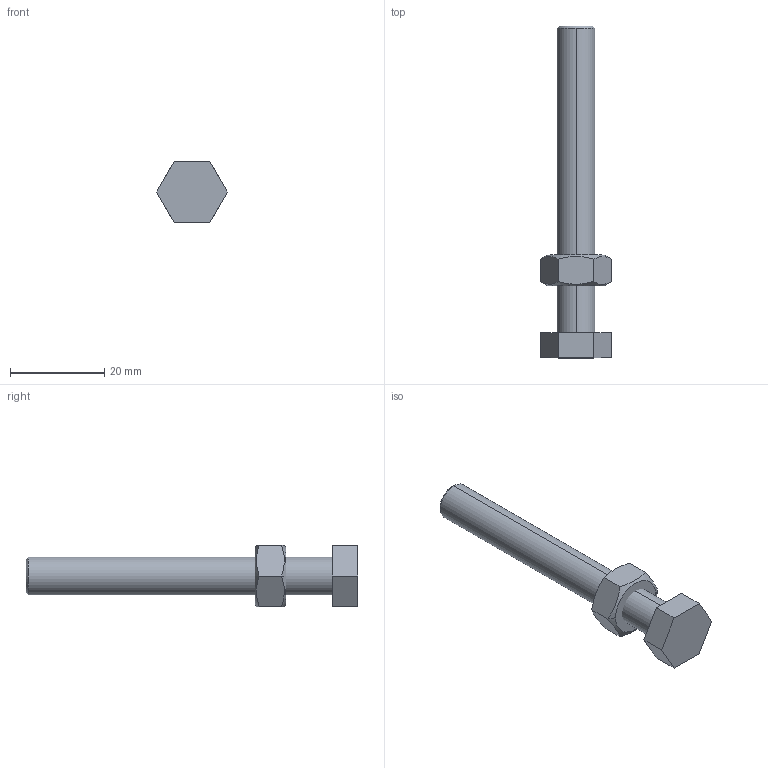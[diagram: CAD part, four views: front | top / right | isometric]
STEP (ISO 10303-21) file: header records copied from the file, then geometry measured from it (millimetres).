
FILE_DESCRIPTION (( 'STEP AP203' ), '1' );
FILE_NAME ('PP-M8.STEP', '2011-05-24T13:52:57', ( 'Usuario' ), ( '' ), 'SwSTEP 2.0', 'SolidWorks 2011', '' );
FILE_SCHEMA (( 'CONFIG_CONTROL_DESIGN' ));
Length unit declared in the file: millimetre
Products named in the file (3): PP-M8; 12.50020; 11.50002
Assembly tree (2 placements, depth 2):
  PP-M8
    11.50002
    12.50020
Bounding box: 15.01 x 70.3 x 13 mm (x, y, z)
Volume: 4737.6 mm3; surface area: 2767.2 mm2
Topology: 2 solids, 2 shells, 31 faces, 72 edges, 46 vertices
Faces by surface type: plane 17, cone 10, cylinder 4
Entity records: 1289 total; most frequent: CARTESIAN_POINT 278, DIRECTION 154, ORIENTED_EDGE 144, EDGE_CURVE 72, AXIS2_PLACEMENT_3D 58, VERTEX_POINT 46, VECTOR 38, LINE 38
